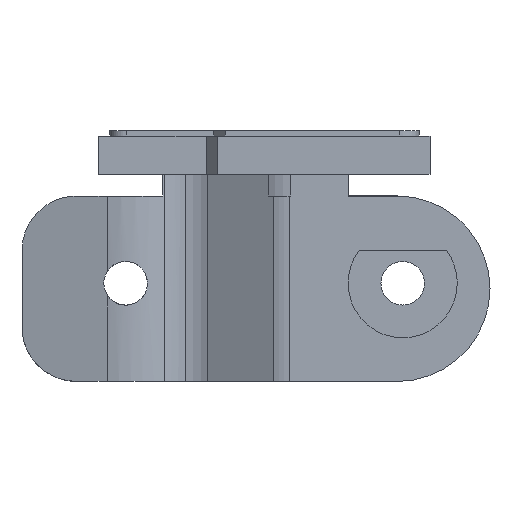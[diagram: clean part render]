
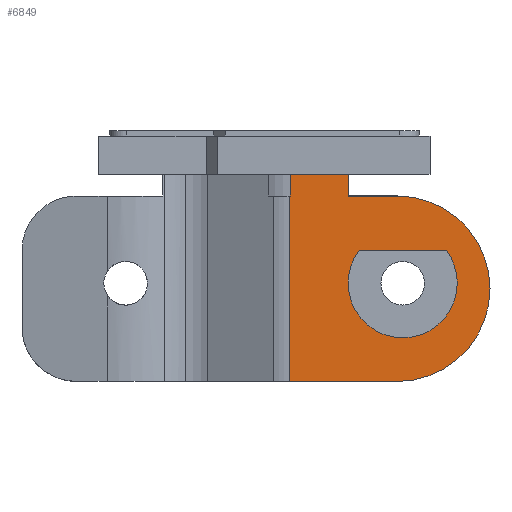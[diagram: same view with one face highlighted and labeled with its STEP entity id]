
A CAD part, left-side view. The second image highlights one B-rep face of the part: STEP entity #6849.
In plain terms, the highlighted planar face has unit normal (-1, 0, 0).
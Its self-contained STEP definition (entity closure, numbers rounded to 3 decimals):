
#1094 = CARTESIAN_POINT ( 'NONE',  ( 164.1, 100.416, -1.3 ) ) ;
#1861 = CARTESIAN_POINT ( 'NONE',  ( 164.1, 86., -6.3 ) ) ;
#1879 = CARTESIAN_POINT ( 'NONE',  ( 164.1, 90.5, -18.3 ) ) ;
#1913 = CARTESIAN_POINT ( 'NONE',  ( 164.1, 95., -9.3 ) ) ;
#2028 = CARTESIAN_POINT ( 'NONE',  ( 164.1, 82., -9.8 ) ) ;
#2190 = DIRECTION ( 'NONE',  ( 0., -1., 0. ) ) ;
#2192 = DIRECTION ( 'NONE',  ( 1., 0., 0. ) ) ;
#2193 = CARTESIAN_POINT ( 'NONE',  ( 164.1, 90.5, -9.8 ) ) ;
#2194 = AXIS2_PLACEMENT_3D ( 'NONE', #2193, #2192, #2190 ) ;
#2199 = CIRCLE ( 'NONE', #2194, 8.5 ) ;
#2300 = CIRCLE ( 'NONE', #2325, 5. ) ;
#2311 = CARTESIAN_POINT ( 'NONE',  ( 164.1, 90., -9.3 ) ) ;
#2325 = AXIS2_PLACEMENT_3D ( 'NONE', #2311, #2435, #2434 ) ;
#2434 = DIRECTION ( 'NONE',  ( 0., 1., 0. ) ) ;
#2435 = DIRECTION ( 'NONE',  ( -1., 0., 0. ) ) ;
#2707 = EDGE_CURVE ( 'NONE', #2825, #6609, #5401, .T. ) ;
#2734 = CARTESIAN_POINT ( 'NONE',  ( 164.1, 85., -9.3 ) ) ;
#2784 = EDGE_CURVE ( 'NONE', #6573, #2804, #5559, .T. ) ;
#2797 = EDGE_CURVE ( 'NONE', #2804, #6579, #5543, .T. ) ;
#2802 = VERTEX_POINT ( 'NONE', #5590 ) ;
#2804 = VERTEX_POINT ( 'NONE', #5587 ) ;
#2811 = EDGE_CURVE ( 'NONE', #2802, #2825, #5613, .T. ) ;
#2821 = VERTEX_POINT ( 'NONE', #5641 ) ;
#2825 = VERTEX_POINT ( 'NONE', #5652 ) ;
#2865 = EDGE_CURVE ( 'NONE', #6572, #2891, #5702, .T. ) ;
#2885 = EDGE_CURVE ( 'NONE', #6326, #2821, #5711, .T. ) ;
#2891 = VERTEX_POINT ( 'NONE', #5758 ) ;
#2901 = EDGE_CURVE ( 'NONE', #2891, #6326, #5748, .T. ) ;
#2915 = CIRCLE ( 'NONE', #2974, 5. ) ;
#2969 = DIRECTION ( 'NONE',  ( 0., 1., 0. ) ) ;
#2971 = DIRECTION ( 'NONE',  ( -1., 0., 0. ) ) ;
#2972 = CARTESIAN_POINT ( 'NONE',  ( 164.1, 90., -9.3 ) ) ;
#2974 = AXIS2_PLACEMENT_3D ( 'NONE', #2972, #2971, #2969 ) ;
#3589 = PLANE ( 'NONE',  #3676 ) ;
#3623 = CARTESIAN_POINT ( 'NONE',  ( 164.1, 100.315, 0.7 ) ) ;
#3676 = AXIS2_PLACEMENT_3D ( 'NONE', #3757, #3756, #3754 ) ;
#3679 = FACE_BOUND ( 'NONE', #6865, .T. ) ;
#3683 = DIRECTION ( 'NONE',  ( 0., 1., 0. ) ) ;
#3684 = VECTOR ( 'NONE', #3683, 1000. ) ;
#3685 = CARTESIAN_POINT ( 'NONE',  ( 164.1, 116.9, 0.7 ) ) ;
#3691 = LINE ( 'NONE', #3685, #3684 ) ;
#3704 = FACE_OUTER_BOUND ( 'NONE', #6877, .T. ) ;
#3752 = CARTESIAN_POINT ( 'NONE',  ( 164.1, 95., 0.7 ) ) ;
#3754 = DIRECTION ( 'NONE',  ( 0., 1., 0. ) ) ;
#3756 = DIRECTION ( 'NONE',  ( 1., 0., 0. ) ) ;
#3757 = CARTESIAN_POINT ( 'NONE',  ( 164.1, 82., -18.3 ) ) ;
#3815 = DIRECTION ( 'NONE',  ( 0., 0., -1. ) ) ;
#3817 = VECTOR ( 'NONE', #3815, 1000. ) ;
#3819 = CARTESIAN_POINT ( 'NONE',  ( 164.1, 95., -18.3 ) ) ;
#3821 = LINE ( 'NONE', #3819, #3817 ) ;
#3893 = DIRECTION ( 'NONE',  ( 0., 0., 1. ) ) ;
#4026 = DIRECTION ( 'NONE',  ( 0., 0., 1. ) ) ;
#4027 = VECTOR ( 'NONE', #4026, 1000. ) ;
#4028 = CARTESIAN_POINT ( 'NONE',  ( 164.1, 100.315, 0.7 ) ) ;
#4032 = LINE ( 'NONE', #4028, #4027 ) ;
#5393 = AXIS2_PLACEMENT_3D ( 'NONE', #5443, #5442, #5441 ) ;
#5401 = CIRCLE ( 'NONE', #5393, 8.5 ) ;
#5441 = DIRECTION ( 'NONE',  ( 0., -1., 0. ) ) ;
#5442 = DIRECTION ( 'NONE',  ( 1., 0., 0. ) ) ;
#5443 = CARTESIAN_POINT ( 'NONE',  ( 164.1, 90.5, -9.8 ) ) ;
#5543 = CIRCLE ( 'NONE', #5584, 5. ) ;
#5552 = DIRECTION ( 'NONE',  ( 0., 1., 0. ) ) ;
#5557 = VECTOR ( 'NONE', #5552, 1000. ) ;
#5558 = CARTESIAN_POINT ( 'NONE',  ( 164.1, 82., -6.3 ) ) ;
#5559 = LINE ( 'NONE', #5558, #5557 ) ;
#5571 = DIRECTION ( 'NONE',  ( -1., 0., 0. ) ) ;
#5583 = DIRECTION ( 'NONE',  ( 0., 1., 0. ) ) ;
#5584 = AXIS2_PLACEMENT_3D ( 'NONE', #5589, #5571, #5583 ) ;
#5587 = CARTESIAN_POINT ( 'NONE',  ( 164.1, 94., -6.3 ) ) ;
#5589 = CARTESIAN_POINT ( 'NONE',  ( 164.1, 90., -9.3 ) ) ;
#5590 = CARTESIAN_POINT ( 'NONE',  ( 164.1, 95., -1.3 ) ) ;
#5593 = DIRECTION ( 'NONE',  ( 0., -1., 0. ) ) ;
#5594 = CARTESIAN_POINT ( 'NONE',  ( 164.1, 82., -1.3 ) ) ;
#5613 = LINE ( 'NONE', #5594, #5654 ) ;
#5641 = CARTESIAN_POINT ( 'NONE',  ( 164.1, 100.315, -1.3 ) ) ;
#5652 = CARTESIAN_POINT ( 'NONE',  ( 164.1, 90.5, -1.3 ) ) ;
#5654 = VECTOR ( 'NONE', #5593, 1000. ) ;
#5690 = DIRECTION ( 'NONE',  ( 0., 1., 0. ) ) ;
#5691 = VECTOR ( 'NONE', #5690, 1000. ) ;
#5698 = CARTESIAN_POINT ( 'NONE',  ( 164.1, 82., -18.3 ) ) ;
#5702 = LINE ( 'NONE', #5698, #5691 ) ;
#5711 = LINE ( 'NONE', #5756, #5755 ) ;
#5732 = VECTOR ( 'NONE', #3893, 1000. ) ;
#5733 = CARTESIAN_POINT ( 'NONE',  ( 164.1, 100.416, -18.3 ) ) ;
#5748 = LINE ( 'NONE', #5733, #5732 ) ;
#5754 = DIRECTION ( 'NONE',  ( 0., -1., 0. ) ) ;
#5755 = VECTOR ( 'NONE', #5754, 1000. ) ;
#5756 = CARTESIAN_POINT ( 'NONE',  ( 164.1, 82., -1.3 ) ) ;
#5758 = CARTESIAN_POINT ( 'NONE',  ( 164.1, 100.416, -18.3 ) ) ;
#6326 = VERTEX_POINT ( 'NONE', #1094 ) ;
#6572 = VERTEX_POINT ( 'NONE', #1879 ) ;
#6573 = VERTEX_POINT ( 'NONE', #1861 ) ;
#6579 = VERTEX_POINT ( 'NONE', #1913 ) ;
#6609 = VERTEX_POINT ( 'NONE', #2028 ) ;
#6638 = EDGE_CURVE ( 'NONE', #6609, #6572, #2199, .T. ) ;
#6665 = EDGE_CURVE ( 'NONE', #6579, #6700, #2300, .T. ) ;
#6700 = VERTEX_POINT ( 'NONE', #2734 ) ;
#6719 = EDGE_CURVE ( 'NONE', #6700, #6573, #2915, .T. ) ;
#6824 = ORIENTED_EDGE ( 'NONE', *, *, #2797, .F. ) ;
#6838 = ORIENTED_EDGE ( 'NONE', *, *, #6842, .T. ) ;
#6839 = ORIENTED_EDGE ( 'NONE', *, *, #2811, .F. ) ;
#6840 = ORIENTED_EDGE ( 'NONE', *, *, #6638, .F. ) ;
#6842 = EDGE_CURVE ( 'NONE', #6853, #6848, #3691, .T. ) ;
#6848 = VERTEX_POINT ( 'NONE', #3623 ) ;
#6849 = ADVANCED_FACE ( 'NONE', ( #3679, #3704 ), #3589, .F. ) ;
#6853 = VERTEX_POINT ( 'NONE', #3752 ) ;
#6854 = ORIENTED_EDGE ( 'NONE', *, *, #6719, .F. ) ;
#6856 = EDGE_CURVE ( 'NONE', #6853, #2802, #3821, .T. ) ;
#6859 = ORIENTED_EDGE ( 'NONE', *, *, #2784, .F. ) ;
#6860 = ORIENTED_EDGE ( 'NONE', *, *, #6856, .F. ) ;
#6861 = ORIENTED_EDGE ( 'NONE', *, *, #2901, .F. ) ;
#6865 = EDGE_LOOP ( 'NONE', ( #6859, #6854, #6873, #6824 ) ) ;
#6868 = ORIENTED_EDGE ( 'NONE', *, *, #2885, .F. ) ;
#6873 = ORIENTED_EDGE ( 'NONE', *, *, #6665, .F. ) ;
#6877 = EDGE_LOOP ( 'NONE', ( #6860, #6838, #6904, #6868, #6861, #6906, #6840, #6878, #6839 ) ) ;
#6878 = ORIENTED_EDGE ( 'NONE', *, *, #2707, .F. ) ;
#6904 = ORIENTED_EDGE ( 'NONE', *, *, #6905, .F. ) ;
#6905 = EDGE_CURVE ( 'NONE', #2821, #6848, #4032, .T. ) ;
#6906 = ORIENTED_EDGE ( 'NONE', *, *, #2865, .F. ) ;
